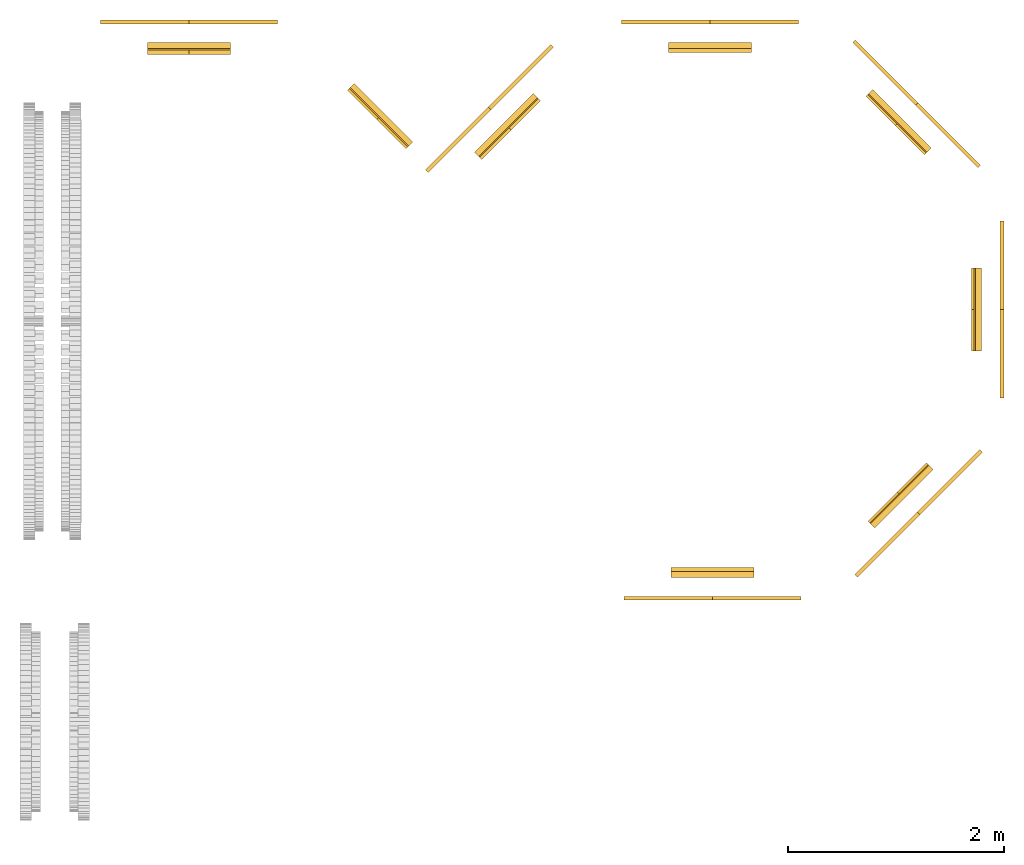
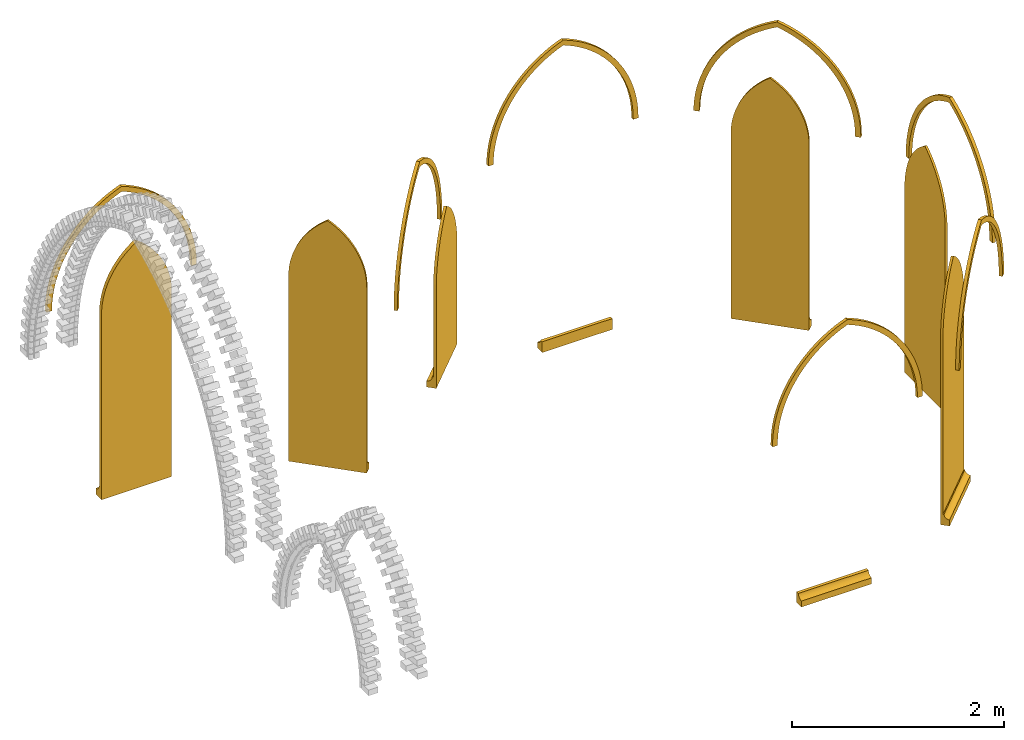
# One storey, incomplete: 8 windows.
"""IFC2X3 building model written with IfcOpenShell, lengths in metres."""

from ifc_helpers import new_model, entity, si_unit, converted_unit, derived_unit, direction, frame, frame_2d, origin, place, context, subcontext, project, spatial, polyline, circle_curve, parameter, trimmed, segment, composite_curve, outline, extrude, source, transform, mapped, material, material_list, type_object, type_shapes, element, save


model = new_model("IFC2X3")

# Units and contexts
model_context = context("Model", 3, precision=1e-05, world=origin(), true_north=direction((6.12303176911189e-17, 1.0)))
plan_context = context("Plan", 3, precision=1e-05, world=origin(), true_north=direction((6.12303176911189e-17, 1.0)))
body_context = subcontext(model_context, "Body", "Model", "MODEL_VIEW")
ifc_project = project(units=[si_unit("LENGTHUNIT", "METRE"), si_unit("AREAUNIT", "SQUARE_METRE"), si_unit("VOLUMEUNIT", "CUBIC_METRE"), converted_unit("PLANEANGLEUNIT", "DEGREE", entity("IfcRatioMeasure", 0.0174532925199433), si_unit("PLANEANGLEUNIT", "RADIAN"), dimensions=[0, 0, 0, 0, 0, 0, 0]), si_unit("MASSUNIT", "GRAM", prefix="KILO"), derived_unit("MASSDENSITYUNIT", [(si_unit("MASSUNIT", "GRAM", prefix="KILO"), 1), (si_unit("LENGTHUNIT", "METRE"), -3)]), derived_unit("MOMENTOFINERTIAUNIT", [(si_unit("LENGTHUNIT", "METRE"), 4)]), si_unit("TIMEUNIT", "SECOND"), si_unit("FREQUENCYUNIT", "HERTZ"), si_unit("THERMODYNAMICTEMPERATUREUNIT", "DEGREE_CELSIUS"), derived_unit("THERMALTRANSMITTANCEUNIT", [(si_unit("MASSUNIT", "GRAM", prefix="KILO"), 1), (si_unit("THERMODYNAMICTEMPERATUREUNIT", "KELVIN"), -1), (si_unit("TIMEUNIT", "SECOND"), -3)]), derived_unit("VOLUMETRICFLOWRATEUNIT", [(si_unit("LENGTHUNIT", "METRE"), 3), (si_unit("TIMEUNIT", "SECOND"), -1)]), derived_unit("MASSFLOWRATEUNIT", [(si_unit("MASSUNIT", "GRAM", prefix="KILO"), 1), (si_unit("TIMEUNIT", "SECOND"), -1)]), derived_unit("ROTATIONALFREQUENCYUNIT", [(si_unit("TIMEUNIT", "SECOND"), -1)]), si_unit("ELECTRICCURRENTUNIT", "AMPERE"), si_unit("ELECTRICVOLTAGEUNIT", "VOLT"), si_unit("POWERUNIT", "WATT"), si_unit("FORCEUNIT", "NEWTON", prefix="KILO"), si_unit("ILLUMINANCEUNIT", "LUX"), si_unit("LUMINOUSFLUXUNIT", "LUMEN"), si_unit("LUMINOUSINTENSITYUNIT", "CANDELA"), derived_unit("USERDEFINED", [(si_unit("MASSUNIT", "GRAM", prefix="KILO"), -1), (si_unit("LENGTHUNIT", "METRE"), -2), (si_unit("TIMEUNIT", "SECOND"), 3), (si_unit("LUMINOUSFLUXUNIT", "LUMEN"), 1)]), derived_unit("SOUNDPOWERUNIT", [(si_unit("MASSUNIT", "GRAM", prefix="KILO"), 1), (si_unit("LENGTHUNIT", "METRE"), 2), (si_unit("TIMEUNIT", "SECOND"), -3)]), derived_unit("SOUNDPRESSUREUNIT", [(si_unit("MASSUNIT", "GRAM", prefix="KILO"), 1), (si_unit("LENGTHUNIT", "METRE"), -1), (si_unit("TIMEUNIT", "SECOND"), -2)]), derived_unit("LINEARVELOCITYUNIT", [(si_unit("LENGTHUNIT", "METRE"), 1), (si_unit("TIMEUNIT", "SECOND"), -1)]), si_unit("PRESSUREUNIT", "PASCAL"), derived_unit("USERDEFINED", [(si_unit("LENGTHUNIT", "METRE"), -2), (si_unit("MASSUNIT", "GRAM", prefix="KILO"), 1), (si_unit("TIMEUNIT", "SECOND"), -2)]), derived_unit("LINEARFORCEUNIT", [(si_unit("MASSUNIT", "GRAM", prefix="KILO"), 1), (si_unit("LENGTHUNIT", "METRE"), 1), (si_unit("TIMEUNIT", "SECOND"), -2), (si_unit("LENGTHUNIT", "METRE"), -1)]), derived_unit("PLANARFORCEUNIT", [(si_unit("MASSUNIT", "GRAM", prefix="KILO"), 1), (si_unit("LENGTHUNIT", "METRE"), 1), (si_unit("TIMEUNIT", "SECOND"), -2), (si_unit("LENGTHUNIT", "METRE"), -2)])], contexts=[model_context, plan_context])

# Site, building, storey
site_placement = place(None, frame((-11.0823275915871, 23.8300534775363, 0.0)))
site = spatial("IfcSite", under=ifc_project, at=site_placement, Name="Default", CompositionType="ELEMENT")
building_placement = place(site_placement, origin())
building = spatial("IfcBuilding", under=site, at=building_placement, Name="Englische Kirche", CompositionType="ELEMENT")
storey_placement = place(building_placement, frame((0.0, 0.0, 0.149999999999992)))
storey = spatial("IfcBuildingStorey", under=building, at=storey_placement, Name="Ebene 1 FFL Sacristy", CompositionType="ELEMENT", Elevation=0.149999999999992)

# Windows
ifc_material_1 = material(Name="Mauerwerk - Sichtmauerwerk_72x265 header Stage2")
ifc_material_2 = material(Name="Glas - Baustein Stained Glass Office")
ifc_material_list_1 = material_list([ifc_material_1, ifc_material_1, ifc_material_2])
ifc_material_list_2 = material_list([ifc_material_1, ifc_material_1, ifc_material_2])
window_style_1 = type_object("IfcWindowStyle", Name="Office Window:Office Window", ConstructionType="NOTDEFINED", OperationType="NOTDEFINED", ParameterTakesPrecedence=False, Sizeable=False, material=ifc_material_list_2)
shared_shape_1 = source(origin(), body_context, "Body", "SweptSolid", [
    extrude(outline(composite_curve([segment(polyline([(-0.0609999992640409, -0.0423959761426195), (0.0640000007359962, -0.0423959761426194)]), True, "CONTINUOUS"), segment(polyline([(0.0640000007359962, -0.0423959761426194), (0.0640000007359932, 0.0466040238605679)]), True, "CONTINUOUS"), segment(polyline([(0.0640000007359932, 0.0466040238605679), (-0.00600000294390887, 0.0466040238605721)]), True, "CONTINUOUS"), segment(trimmed(circle_curve(frame_2d((-0.0609999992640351, 0.0465839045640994), x_axis=(0.0, -1.0)), 0.055), [parameter(359.999999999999)], [parameter(90.0209591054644)], True, "PARAMETER"), False, "CONTINUOUS"), segment(polyline([(-0.0609999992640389, -0.0084160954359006), (-0.0609999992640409, -0.0423959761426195)]), True, "CONTINUOUS")], self_intersect=False)), frame((0.216611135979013, 0.306395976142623, 0.280000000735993), z_axis=(1.0, 0.0, 0.0), x_axis=(0.0, 0.0, -1.0)), (0.0, 0.0, 1.0), 0.764999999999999),
    extrude(outline(composite_curve([segment(polyline([(0.960000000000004, -0.280921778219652), (1.015, -0.280921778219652)]), True, "CONTINUOUS"), segment(trimmed(circle_curve(frame_2d((-0.228205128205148, -0.280921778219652), x_axis=(0.34242549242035, 0.93954498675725)), 1.24320512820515), [parameter(290.02471724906)], [parameter(359.999999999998)], True, "PARAMETER"), True, "CONTINUOUS"), segment(trimmed(circle_curve(frame_2d((0.623205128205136, -0.28092177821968), x_axis=(-1.0, 0.0)), 1.24320512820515), [parameter(290.024717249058)], [parameter(0.0)], True, "PARAMETER"), True, "CONTINUOUS"), segment(polyline([(-0.620000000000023, -0.280921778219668), (-0.620000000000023, -0.29592177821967)]), True, "CONTINUOUS"), segment(polyline([(-0.620000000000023, -0.29592177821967), (-0.565000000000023, -0.29592177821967)]), True, "CONTINUOUS"), segment(polyline([(-0.565000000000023, -0.29592177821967), (-0.565000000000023, -0.280921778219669)]), True, "CONTINUOUS"), segment(trimmed(circle_curve(frame_2d((0.623205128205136, -0.28092177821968), x_axis=(-1.0, 0.0)), 1.18820512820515), [parameter(290.994343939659)], [parameter(0.0)], True, "PARAMETER"), False, "CONTINUOUS"), segment(trimmed(circle_curve(frame_2d((-0.228205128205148, -0.280921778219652), x_axis=(0.34242549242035, 0.93954498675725)), 1.18820512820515), [parameter(290.02471724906)], [parameter(359.030373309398)], True, "PARAMETER"), False, "CONTINUOUS")], self_intersect=False)), frame((0.796611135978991, 0.528000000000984, 2.6379217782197), z_axis=(0.0, 1.0, 0.0), x_axis=(-1.0, 0.0, 0.0)), (0.0, 0.0, 1.0), 0.035),
    extrude(outline(composite_curve([segment(trimmed(circle_curve(frame_2d((-0.449272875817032, -0.666400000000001), x_axis=(1.0, 0.0)), 0.83177287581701), [parameter(302.69309402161)], [parameter(5.08888749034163e-14)], True, "PARAMETER"), True, "CONTINUOUS"), segment(polyline([(0.382499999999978, -0.666399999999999), (0.382499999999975, 1.3496)]), True, "CONTINUOUS"), segment(polyline([(0.382499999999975, 1.3496), (-0.382499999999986, 1.3496)]), True, "CONTINUOUS"), segment(polyline([(-0.382499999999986, 1.3496), (-0.382499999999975, -0.666400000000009)]), True, "CONTINUOUS"), segment(trimmed(circle_curve(frame_2d((0.449272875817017, -0.666400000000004), x_axis=(1.0, 0.0)), 0.831772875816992), [parameter(180.0)], [parameter(237.306905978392)], True, "PARAMETER"), True, "CONTINUOUS")], self_intersect=False)), frame((0.599111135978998, 0.264000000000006, 1.69060000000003), z_axis=(0.0, 1.0, 0.0), x_axis=(1.0, 0.0, 0.0)), (0.0, 0.0, 1.0), 0.0240000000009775),
])
type_shapes(window_style_1, [shared_shape_1])
window_1_placement = place(storey_placement, frame((25.0815875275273, 14.542436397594, 1.36799999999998), z_axis=(0.0, 0.0, 1.0), x_axis=(0.707106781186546, -0.707106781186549, 0.0)))
element("IfcWindow", 1, at=window_1_placement, inside=storey, type_object=window_style_1, material=ifc_material_list_1, Name="Office Window:Office Window", ObjectType="Office Window:Office Window", OverallHeight=3.52504714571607, OverallWidth=1.63500000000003, context=body_context, shape_type="MappedRepresentation", body=[
    mapped(shared_shape_1, transform((0.0, 0.0, 0.0), scale=1.0)),
])
ifc_material_list_3 = material_list([ifc_material_1, ifc_material_2])
window_2_placement = place(storey_placement, frame((26.1352268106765, 13.2038940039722, 1.36800000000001), z_axis=(0.0, 0.0, 1.0), x_axis=(0.0, -1.0, 0.0)))
element("IfcWindow", 2, at=window_2_placement, inside=storey, type_object=window_style_1, material=ifc_material_list_3, Name="Office Window:Office Window", ObjectType="Office Window:Office Window", OverallHeight=3.52504714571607, OverallWidth=1.63500000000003, context=body_context, shape_type="MappedRepresentation", body=[
    mapped(shared_shape_1, transform((0.0, 0.0, 0.0), scale=1.0)),
])
ifc_material_list_4 = material_list([ifc_material_1, ifc_material_2])
window_3_placement = place(storey_placement, frame((25.9468218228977, 11.5273601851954, 1.36799999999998), z_axis=(0.0, 0.0, 1.0), x_axis=(-0.707106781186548, -0.707106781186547, 0.0)))
element("IfcWindow", 3, at=window_3_placement, inside=storey, type_object=window_style_1, material=ifc_material_list_4, Name="Office Window:Office Window", ObjectType="Office Window:Office Window", OverallHeight=3.52504714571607, OverallWidth=1.63500000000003, context=body_context, shape_type="MappedRepresentation", body=[
    mapped(shared_shape_1, transform((0.0, 0.0, 0.0), scale=1.0)),
])
ifc_material_list_5 = material_list([ifc_material_1, ifc_material_2])
ifc_material_list_6 = material_list([ifc_material_1, ifc_material_2])
window_style_2 = type_object("IfcWindowStyle", Name="Office Window_Chapel:Office Window", ConstructionType="NOTDEFINED", OperationType="NOTDEFINED", ParameterTakesPrecedence=False, Sizeable=False, material=ifc_material_list_6)
shared_shape_2 = source(origin(), body_context, "Body", "SweptSolid", [
    extrude(outline(composite_curve([segment(polyline([(-0.0423959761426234, -0.0609999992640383), (-0.00841609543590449, -0.0609999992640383)]), True, "CONTINUOUS"), segment(trimmed(circle_curve(frame_2d((0.0465839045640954, -0.0609999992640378), x_axis=(-1.0, 0.0)), 0.055), [parameter(269.979040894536)], [parameter(8.65110873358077e-13)], True, "PARAMETER"), False, "CONTINUOUS"), segment(polyline([(0.0466040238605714, -0.00600000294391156), (0.0466040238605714, 0.0640000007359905)]), True, "CONTINUOUS"), segment(polyline([(0.0466040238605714, 0.0640000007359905), (-0.0423959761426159, 0.0640000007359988)]), True, "CONTINUOUS"), segment(polyline([(-0.0423959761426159, 0.0640000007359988), (-0.0423959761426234, -0.0609999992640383)]), True, "CONTINUOUS")], self_intersect=False)), frame((0.976611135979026, 1.01729767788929, 0.280000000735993), z_axis=(-1.0, 0.0, 0.0), x_axis=(0.0, 1.0, 0.0)), (0.0, 0.0, 1.0), 0.764999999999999),
    extrude(outline(composite_curve([segment(trimmed(circle_curve(frame_2d((-0.449272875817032, -0.666400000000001), x_axis=(1.0, 0.0)), 0.83177287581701), [parameter(302.69309402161)], [parameter(5.08888749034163e-14)], True, "PARAMETER"), True, "CONTINUOUS"), segment(polyline([(0.382499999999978, -0.666399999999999), (0.382499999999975, 1.3496)]), True, "CONTINUOUS"), segment(polyline([(0.382499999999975, 1.3496), (-0.382499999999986, 1.3496)]), True, "CONTINUOUS"), segment(polyline([(-0.382499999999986, 1.3496), (-0.382499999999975, -0.666400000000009)]), True, "CONTINUOUS"), segment(trimmed(circle_curve(frame_2d((0.449272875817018, -0.666400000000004), x_axis=(1.0, 0.0)), 0.831772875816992), [parameter(180.0)], [parameter(237.306905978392)], True, "PARAMETER"), True, "CONTINUOUS")], self_intersect=False)), frame((0.594111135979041, 0.998901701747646, 1.69060000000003), z_axis=(0.0, -1.0, 0.0), x_axis=(-1.0, 0.0, 0.0)), (0.0, 0.0, 1.0), 0.0240000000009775),
])
type_shapes(window_style_2, [shared_shape_2])
window_4_placement = place(storey_placement, frame((19.7908392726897, 14.0913214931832, 1.36799999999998), z_axis=(0.0, 0.0, 1.0), x_axis=(0.707106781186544, -0.707106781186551, 0.0)))
element("IfcWindow", 4, at=window_4_placement, inside=storey, type_object=window_style_2, material=ifc_material_list_5, Name="Office Window_Chapel:Office Window", ObjectType="Office Window_Chapel:Office Window", OverallHeight=3.30247371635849, OverallWidth=1.635, context=body_context, shape_type="MappedRepresentation", body=[
    mapped(shared_shape_2, transform((0.0, 0.0, 0.0), scale=1.0)),
])
ifc_material_list_7 = material_list([ifc_material_1, ifc_material_1])
ifc_material_list_8 = material_list([ifc_material_1, ifc_material_1])
window_style_3 = type_object("IfcWindowStyle", Name="Office Window_blind:Office Window", ConstructionType="NOTDEFINED", OperationType="NOTDEFINED", ParameterTakesPrecedence=False, Sizeable=False, material=ifc_material_list_8)
shared_shape_3 = source(origin(), body_context, "Body", "SweptSolid", [
    extrude(outline(composite_curve([segment(polyline([(-0.0609999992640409, -0.0423959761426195), (0.0640000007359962, -0.0423959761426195)]), True, "CONTINUOUS"), segment(polyline([(0.0640000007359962, -0.0423959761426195), (0.0640000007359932, 0.0466040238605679)]), True, "CONTINUOUS"), segment(polyline([(0.0640000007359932, 0.0466040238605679), (-0.00600000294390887, 0.0466040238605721)]), True, "CONTINUOUS"), segment(trimmed(circle_curve(frame_2d((-0.0609999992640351, 0.0465839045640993), x_axis=(0.0, -1.0)), 0.055), [parameter(359.999999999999)], [parameter(90.0209591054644)], True, "PARAMETER"), False, "CONTINUOUS"), segment(polyline([(-0.0609999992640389, -0.0084160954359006), (-0.0609999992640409, -0.0423959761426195)]), True, "CONTINUOUS")], self_intersect=False)), frame((0.216611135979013, -0.404505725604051, 0.280000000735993), z_axis=(1.0, 0.0, 0.0), x_axis=(0.0, 0.0, -1.0)), (0.0, 0.0, 1.0), 0.764999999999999),
    extrude(outline(composite_curve([segment(polyline([(0.960000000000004, -0.280921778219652), (1.015, -0.280921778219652)]), True, "CONTINUOUS"), segment(trimmed(circle_curve(frame_2d((-0.228205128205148, -0.280921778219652), x_axis=(0.34242549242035, 0.93954498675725)), 1.24320512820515), [parameter(290.02471724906)], [parameter(359.999999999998)], True, "PARAMETER"), True, "CONTINUOUS"), segment(trimmed(circle_curve(frame_2d((0.623205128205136, -0.28092177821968), x_axis=(-1.0, 0.0)), 1.24320512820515), [parameter(290.024717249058)], [parameter(0.0)], True, "PARAMETER"), True, "CONTINUOUS"), segment(polyline([(-0.620000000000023, -0.280921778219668), (-0.620000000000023, -0.29592177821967)]), True, "CONTINUOUS"), segment(polyline([(-0.620000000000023, -0.29592177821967), (-0.565000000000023, -0.29592177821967)]), True, "CONTINUOUS"), segment(polyline([(-0.565000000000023, -0.29592177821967), (-0.565000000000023, -0.280921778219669)]), True, "CONTINUOUS"), segment(trimmed(circle_curve(frame_2d((0.623205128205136, -0.28092177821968), x_axis=(-1.0, 0.0)), 1.18820512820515), [parameter(290.994343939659)], [parameter(0.0)], True, "PARAMETER"), False, "CONTINUOUS"), segment(trimmed(circle_curve(frame_2d((-0.228205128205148, -0.280921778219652), x_axis=(0.34242549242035, 0.93954498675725)), 1.18820512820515), [parameter(290.02471724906)], [parameter(359.030373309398)], True, "PARAMETER"), False, "CONTINUOUS")], self_intersect=False)), frame((0.796611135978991, -0.18290170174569, 2.6379217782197), z_axis=(0.0, 1.0, 0.0), x_axis=(-1.0, 0.0, 0.0)), (0.0, 0.0, 1.0), 0.035),
])
type_shapes(window_style_3, [shared_shape_3])
window_5_placement = place(storey_placement, frame((23.3819229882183, 15.4276206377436, 1.36799999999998)))
element("IfcWindow", 5, at=window_5_placement, inside=storey, type_object=window_style_3, material=ifc_material_list_7, Name="Office Window_blind:Office Window", ObjectType="Office Window_blind:Office Window", OverallHeight=3.52504714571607, OverallWidth=1.63500000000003, context=body_context, shape_type="MappedRepresentation", body=[
    mapped(shared_shape_3, transform((0.0, 0.0, 0.0), scale=1.0)),
])
ifc_material_list_9 = material_list([ifc_material_1, ifc_material_1, ifc_material_2])
ifc_material_list_10 = material_list([ifc_material_1, ifc_material_1, ifc_material_2])
window_style_4 = type_object("IfcWindowStyle", Name="Office Window:Office Window", ConstructionType="NOTDEFINED", OperationType="NOTDEFINED", ParameterTakesPrecedence=False, Sizeable=False, material=ifc_material_list_10)
shared_shape_4 = source(origin(), body_context, "Body", "SweptSolid", [
    extrude(outline(composite_curve([segment(polyline([(-0.0609999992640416, -0.0531959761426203), (0.0640000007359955, -0.0531959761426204)]), True, "CONTINUOUS"), segment(polyline([(0.0640000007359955, -0.0531959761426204), (0.0640000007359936, 0.0538040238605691)]), True, "CONTINUOUS"), segment(polyline([(0.0640000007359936, 0.0538040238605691), (-0.00600000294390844, 0.0538040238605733)]), True, "CONTINUOUS"), segment(trimmed(circle_curve(frame_2d((-0.0609999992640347, 0.0537839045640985), x_axis=(0.0, -1.0)), 0.055), [parameter(359.999999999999)], [parameter(90.0209591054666)], True, "PARAMETER"), False, "CONTINUOUS"), segment(polyline([(-0.0609999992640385, -0.0012160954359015), (-0.0609999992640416, -0.0531959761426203)]), True, "CONTINUOUS")], self_intersect=False)), frame((0.216611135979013, 0.335195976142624, 0.280000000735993), z_axis=(1.0, 0.0, 0.0), x_axis=(0.0, 0.0, -1.0)), (0.0, 0.0, 1.0), 0.764999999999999),
    extrude(outline(composite_curve([segment(polyline([(0.960000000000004, -0.280921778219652), (1.015, -0.280921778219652)]), True, "CONTINUOUS"), segment(trimmed(circle_curve(frame_2d((-0.228205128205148, -0.280921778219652), x_axis=(0.34242549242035, 0.93954498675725)), 1.24320512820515), [parameter(290.02471724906)], [parameter(359.999999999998)], True, "PARAMETER"), True, "CONTINUOUS"), segment(trimmed(circle_curve(frame_2d((0.623205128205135, -0.28092177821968), x_axis=(-1.0, 0.0)), 1.24320512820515), [parameter(290.024717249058)], [parameter(0.0)], True, "PARAMETER"), True, "CONTINUOUS"), segment(polyline([(-0.620000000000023, -0.280921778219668), (-0.620000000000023, -0.29592177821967)]), True, "CONTINUOUS"), segment(polyline([(-0.620000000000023, -0.29592177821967), (-0.565000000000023, -0.29592177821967)]), True, "CONTINUOUS"), segment(polyline([(-0.565000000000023, -0.29592177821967), (-0.565000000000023, -0.280921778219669)]), True, "CONTINUOUS"), segment(trimmed(circle_curve(frame_2d((0.623205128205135, -0.28092177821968), x_axis=(-1.0, 0.0)), 1.18820512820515), [parameter(290.994343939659)], [parameter(0.0)], True, "PARAMETER"), False, "CONTINUOUS"), segment(trimmed(circle_curve(frame_2d((-0.228205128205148, -0.280921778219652), x_axis=(0.34242549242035, 0.93954498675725)), 1.18820512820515), [parameter(290.02471724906)], [parameter(359.030373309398)], True, "PARAMETER"), False, "CONTINUOUS")], self_intersect=False)), frame((0.796611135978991, 0.564000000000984, 2.6379217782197), z_axis=(0.0, 1.0, 0.0), x_axis=(-1.0, 0.0, 0.0)), (0.0, 0.0, 1.0), 0.0350000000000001),
    extrude(outline(composite_curve([segment(trimmed(circle_curve(frame_2d((-0.449272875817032, -0.666400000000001), x_axis=(1.0, 0.0)), 0.83177287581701), [parameter(302.69309402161)], [parameter(5.08888749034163e-14)], True, "PARAMETER"), True, "CONTINUOUS"), segment(polyline([(0.382499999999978, -0.666399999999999), (0.382499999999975, 1.3496)]), True, "CONTINUOUS"), segment(polyline([(0.382499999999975, 1.3496), (-0.382499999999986, 1.3496)]), True, "CONTINUOUS"), segment(polyline([(-0.382499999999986, 1.3496), (-0.382499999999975, -0.666400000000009)]), True, "CONTINUOUS"), segment(trimmed(circle_curve(frame_2d((0.449272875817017, -0.666400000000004), x_axis=(1.0, 0.0)), 0.831772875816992), [parameter(180.0)], [parameter(237.306905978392)], True, "PARAMETER"), True, "CONTINUOUS")], self_intersect=False)), frame((0.599111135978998, 0.282000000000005, 1.69060000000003), z_axis=(0.0, 1.0, 0.0), x_axis=(1.0, 0.0, 0.0)), (0.0, 0.0, 1.0), 0.0420000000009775),
])
type_shapes(window_style_4, [shared_shape_4])
placement_1 = place(storey_placement, frame((20.3895134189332, 14.9627189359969, 0.0), z_axis=(0.0, 0.0, 1.0), x_axis=(-1.0, 0.0, 0.0)))
placement_2 = place(placement_1, frame((1.82304217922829, 0.282000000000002, 1.36799999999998), z_axis=(0.0, 0.0, 1.0), x_axis=(-1.0, 0.0, 0.0)))
window_6_placement = place(placement_2, origin())
element("IfcWindow", 6, at=window_6_placement, inside=storey, type_object=window_style_4, material=ifc_material_list_9, Name="Office Window:Office Window", ObjectType="Office Window:Office Window", OverallHeight=3.52504714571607, OverallWidth=1.63500000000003, context=body_context, shape_type="MappedRepresentation", body=[
    mapped(shared_shape_4, transform((0.0, 0.0, 0.0), scale=1.0)),
])
ifc_material_list_11 = material_list([ifc_material_1, ifc_material_1])
ifc_material_list_12 = material_list([ifc_material_1, ifc_material_1])
window_style_5 = type_object("IfcWindowStyle", Name="Office Window_blind:Office Window", ConstructionType="NOTDEFINED", OperationType="NOTDEFINED", ParameterTakesPrecedence=False, Sizeable=False, material=ifc_material_list_12)
shared_shape_5 = source(origin(), body_context, "Body", "SweptSolid", [
    extrude(outline(composite_curve([segment(polyline([(-0.0609999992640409, -0.0423959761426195), (0.0640000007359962, -0.0423959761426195)]), True, "CONTINUOUS"), segment(polyline([(0.0640000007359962, -0.0423959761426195), (0.0640000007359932, 0.0466040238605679)]), True, "CONTINUOUS"), segment(polyline([(0.0640000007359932, 0.0466040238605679), (-0.00600000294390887, 0.0466040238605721)]), True, "CONTINUOUS"), segment(trimmed(circle_curve(frame_2d((-0.0609999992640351, 0.0465839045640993), x_axis=(0.0, -1.0)), 0.055), [parameter(359.999999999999)], [parameter(90.0209591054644)], True, "PARAMETER"), False, "CONTINUOUS"), segment(polyline([(-0.0609999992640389, -0.00841609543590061), (-0.0609999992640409, -0.0423959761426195)]), True, "CONTINUOUS")], self_intersect=False)), frame((0.216611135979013, 0.0283959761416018, 0.280000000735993), z_axis=(1.0, 0.0, 0.0), x_axis=(0.0, 0.0, -1.0)), (0.0, 0.0, 1.0), 0.764999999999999),
    extrude(outline(composite_curve([segment(polyline([(0.960000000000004, -0.280921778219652), (1.015, -0.280921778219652)]), True, "CONTINUOUS"), segment(trimmed(circle_curve(frame_2d((-0.228205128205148, -0.280921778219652), x_axis=(0.34242549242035, 0.93954498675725)), 1.24320512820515), [parameter(290.02471724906)], [parameter(359.999999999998)], True, "PARAMETER"), True, "CONTINUOUS"), segment(trimmed(circle_curve(frame_2d((0.623205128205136, -0.28092177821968), x_axis=(-1.0, 0.0)), 1.24320512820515), [parameter(290.024717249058)], [parameter(0.0)], True, "PARAMETER"), True, "CONTINUOUS"), segment(polyline([(-0.620000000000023, -0.280921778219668), (-0.620000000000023, -0.29592177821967)]), True, "CONTINUOUS"), segment(polyline([(-0.620000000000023, -0.29592177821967), (-0.565000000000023, -0.29592177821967)]), True, "CONTINUOUS"), segment(polyline([(-0.565000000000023, -0.29592177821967), (-0.565000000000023, -0.280921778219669)]), True, "CONTINUOUS"), segment(trimmed(circle_curve(frame_2d((0.623205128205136, -0.28092177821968), x_axis=(-1.0, 0.0)), 1.18820512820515), [parameter(290.994343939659)], [parameter(0.0)], True, "PARAMETER"), False, "CONTINUOUS"), segment(trimmed(circle_curve(frame_2d((-0.228205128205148, -0.280921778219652), x_axis=(0.34242549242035, 0.93954498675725)), 1.18820512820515), [parameter(290.02471724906)], [parameter(359.030373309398)], True, "PARAMETER"), False, "CONTINUOUS")], self_intersect=False)), frame((0.796611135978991, 0.249999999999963, 2.6379217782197), z_axis=(0.0, 1.0, 0.0), x_axis=(-1.0, 0.0, 0.0)), (0.0, 0.0, 1.0), 0.035),
])
type_shapes(window_style_5, [shared_shape_5])
window_7_placement = place(storey_placement, frame((24.6037567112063, 10.2030775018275, 1.36799999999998), z_axis=(0.0, 0.0, 1.0), x_axis=(-1.0, 0.0, 0.0)))
element("IfcWindow", 7, at=window_7_placement, inside=storey, type_object=window_style_5, material=ifc_material_list_11, Name="Office Window_blind:Office Window", ObjectType="Office Window_blind:Office Window", OverallHeight=3.52504714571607, OverallWidth=1.63500000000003, context=body_context, shape_type="MappedRepresentation", body=[
    mapped(shared_shape_5, transform((0.0, 0.0, 0.0), scale=1.0)),
])
ifc_material_3 = material(Name="<Unnamed>")
ifc_material_list_13 = material_list([ifc_material_3, ifc_material_3, ifc_material_3])
ifc_material_list_14 = material_list([ifc_material_3, ifc_material_3, ifc_material_3])
window_style_6 = type_object("IfcWindowStyle", Name="Office Window:Office Window 2", ConstructionType="NOTDEFINED", OperationType="NOTDEFINED", ParameterTakesPrecedence=False, Sizeable=False, material=ifc_material_list_14)
shared_shape_6 = source(origin(), body_context, "Body", "SweptSolid", [
    extrude(outline(composite_curve([segment(polyline([(0.960000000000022, -0.280921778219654), (1.01500000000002, -0.280921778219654)]), True, "CONTINUOUS"), segment(trimmed(circle_curve(frame_2d((-0.228205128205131, -0.280921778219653), x_axis=(0.34242549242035, 0.93954498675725)), 1.24320512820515), [parameter(290.02471724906)], [parameter(359.999999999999)], True, "PARAMETER"), True, "CONTINUOUS"), segment(trimmed(circle_curve(frame_2d((0.623205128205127, -0.280921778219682), x_axis=(-1.0, 0.0)), 1.24320512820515), [parameter(290.024717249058)], [parameter(0.0)], True, "PARAMETER"), True, "CONTINUOUS"), segment(polyline([(-0.620000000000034, -0.280921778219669), (-0.620000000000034, -0.295921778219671)]), True, "CONTINUOUS"), segment(polyline([(-0.620000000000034, -0.295921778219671), (-0.565000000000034, -0.295921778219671)]), True, "CONTINUOUS"), segment(polyline([(-0.565000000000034, -0.295921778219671), (-0.565000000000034, -0.28092177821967)]), True, "CONTINUOUS"), segment(trimmed(circle_curve(frame_2d((0.623205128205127, -0.280921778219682), x_axis=(-1.0, 0.0)), 1.18820512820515), [parameter(290.994343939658)], [parameter(0.0)], True, "PARAMETER"), False, "CONTINUOUS"), segment(trimmed(circle_curve(frame_2d((-0.228205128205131, -0.280921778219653), x_axis=(0.34242549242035, 0.93954498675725)), 1.18820512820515), [parameter(290.02471724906)], [parameter(359.030373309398)], True, "PARAMETER"), False, "CONTINUOUS")], self_intersect=False)), frame((0.796611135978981, 0.528000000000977, 1.63792177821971), z_axis=(0.0, 1.0, 0.0), x_axis=(-1.0, 0.0, 0.0)), (0.0, 0.0, 1.0), 0.035),
    extrude(outline(composite_curve([segment(polyline([(-0.060999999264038, -0.0453959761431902), (0.0640000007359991, -0.0453959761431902)]), True, "CONTINUOUS"), segment(polyline([(0.0640000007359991, -0.0453959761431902), (0.0640000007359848, 0.0486040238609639)]), True, "CONTINUOUS"), segment(polyline([(0.0640000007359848, 0.0486040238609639), (-0.00600000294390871, 0.0486040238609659)]), True, "CONTINUOUS"), segment(trimmed(circle_curve(frame_2d((-0.060999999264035, 0.0485839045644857), x_axis=(0.0, -1.0)), 0.055), [parameter(359.999999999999)], [parameter(90.0209591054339)], True, "PARAMETER"), False, "CONTINUOUS"), segment(polyline([(-0.0609999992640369, -0.00641609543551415), (-0.060999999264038, -0.0453959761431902)]), True, "CONTINUOUS")], self_intersect=False)), frame((0.216611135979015, 0.309395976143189, 0.280000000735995), z_axis=(1.0, 0.0, 0.0), x_axis=(0.0, 0.0, -1.0)), (0.0, 0.0, 1.0), 0.764999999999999),
    extrude(outline(composite_curve([segment(trimmed(circle_curve(frame_2d((-0.449272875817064, -0.266400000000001), x_axis=(1.0, 0.0)), 0.83177287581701), [parameter(302.69309402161)], [parameter(5.08888749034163e-14)], True, "PARAMETER"), True, "CONTINUOUS"), segment(polyline([(0.382499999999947, -0.266400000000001), (0.38249999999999, 0.7496)]), True, "CONTINUOUS"), segment(polyline([(0.382499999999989, 0.7496), (-0.382499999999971, 0.749599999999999)]), True, "CONTINUOUS"), segment(polyline([(-0.382499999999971, 0.749599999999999), (-0.38249999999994, -0.266400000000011)]), True, "CONTINUOUS"), segment(trimmed(circle_curve(frame_2d((0.449272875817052, -0.266400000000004), x_axis=(1.0, 0.0)), 0.831772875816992), [parameter(180.0)], [parameter(237.306905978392)], True, "PARAMETER"), True, "CONTINUOUS")], self_intersect=False)), frame((0.599111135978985, 0.263999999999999, 1.09060000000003), z_axis=(0.0, 1.0, 0.0), x_axis=(1.0, 0.0, 0.0)), (0.0, 0.0, 1.0), 0.0290000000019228),
])
type_shapes(window_style_6, [shared_shape_6])
window_8_placement = place(storey_placement, frame((21.9053100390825, 13.6516755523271, 2.15899999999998), z_axis=(0.0, 0.0, 1.0), x_axis=(0.707106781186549, 0.707106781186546, 0.0)))
element("IfcWindow", 8, at=window_8_placement, inside=storey, type_object=window_style_6, material=ifc_material_list_13, Name="Office Window:Office Window 2", ObjectType="Office Window:Office Window 2", OverallHeight=2.52504714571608, OverallWidth=1.63500000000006, context=body_context, shape_type="MappedRepresentation", body=[
    mapped(shared_shape_6, transform((0.0, 0.0, 0.0), scale=1.0)),
])

save(model, "model.ifc")
